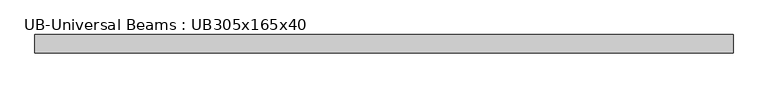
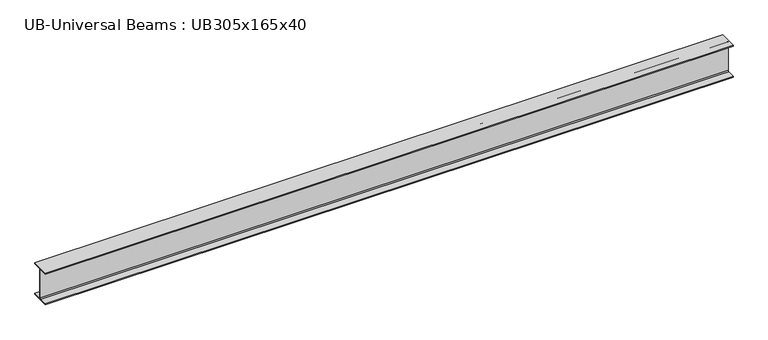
"""IFC4 building model written with IfcOpenShell, lengths in millimetres: beam geometry, UB-Universal Beams : UB305x165x40."""

from ifc_helpers import new_model, si_unit, point, frame, frame_2d, origin, place, context, project, spatial, polyline, circle_curve, trimmed, segment, composite_curve, outline, extrude, source, transform, mapped, element, save


def ub_universal_beams_ub305x165x40_db302e90(model_context):
    return source(origin(), model_context, "Body", "SweptSolid", [
        extrude(outline(composite_curve([segment(polyline([(82.5, -141.5), (82.5, -151.7), (-82.5, -151.7), (-82.5, -141.5), (-11.9, -141.5)]), True, "CONTINUOUS"), segment(trimmed(circle_curve(frame_2d((-11.9, -132.6)), 8.9), [point((-11.9, -141.5))], [point((-3.0, -132.6))], True, "CARTESIAN"), True, "CONTINUOUS"), segment(polyline([(-3.0, -132.6), (-3.0, 132.6)]), True, "CONTINUOUS"), segment(trimmed(circle_curve(frame_2d((-11.9, 132.6)), 8.9), [point((-3.0, 132.6))], [point((-11.9, 141.5))], True, "CARTESIAN"), True, "CONTINUOUS"), segment(polyline([(-11.9, 141.5), (-82.5, 141.5), (-82.5, 151.7), (82.5, 151.7), (82.5, 141.5), (11.9, 141.5)]), True, "CONTINUOUS"), segment(trimmed(circle_curve(frame_2d((11.9, 132.6)), 8.9), [point((11.9, 141.5))], [point((3.0, 132.6))], True, "CARTESIAN"), True, "CONTINUOUS"), segment(polyline([(3.0, 132.6), (3.0, -132.6)]), True, "CONTINUOUS"), segment(trimmed(circle_curve(frame_2d((11.9, -132.6)), 8.9), [point((3.0, -132.6))], [point((11.9, -141.5))], True, "CARTESIAN"), True, "CONTINUOUS"), segment(polyline([(11.9, -141.5), (82.5, -141.5)]), True, "CONTINUOUS")], self_intersect=False)), frame((-3127.85, 0.0, 0.0), z_axis=(1.0, 0.0, 0.0), x_axis=(0.0, 1.0, 0.0)), (0.0, 0.0, 1.0), 6223.1),
    ])


if __name__ == "__main__":
    model = new_model("IFC4")
    model_context = context("Model", 3, world=origin())
    ifc_project = project(units=[si_unit("LENGTHUNIT", "METRE", prefix="MILLI")], contexts=[model_context])
    site = spatial("IfcSite", under=ifc_project)
    building = spatial("IfcBuilding", under=site)
    placement = place(None, origin())
    ub_universal_beams_ub305x165x40_shape = ub_universal_beams_ub305x165x40_db302e90(model_context)
    element("IfcBeam", 1, ObjectType="UB-Universal Beams : UB305x165x40", at=placement, inside=building, context=model_context, shape_type="MappedRepresentation", body=[
        mapped(ub_universal_beams_ub305x165x40_shape, transform((0.0, 0.0, 0.0), x_axis=(1.0, 0.0, 0.0), y_axis=(0.0, 1.0, 0.0), z_axis=(0.0, 0.0, 1.0))),
    ])
    save(model, "model.ifc")
